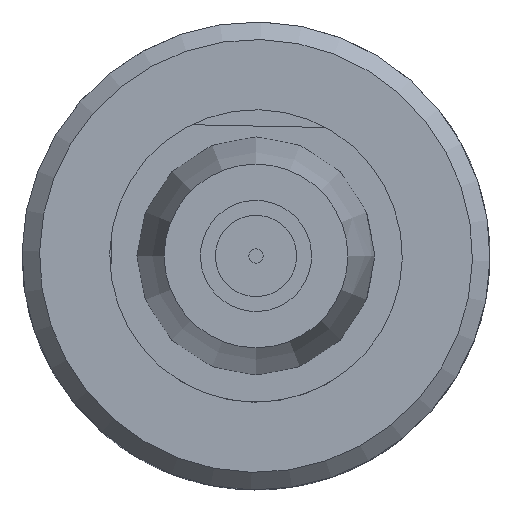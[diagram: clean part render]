
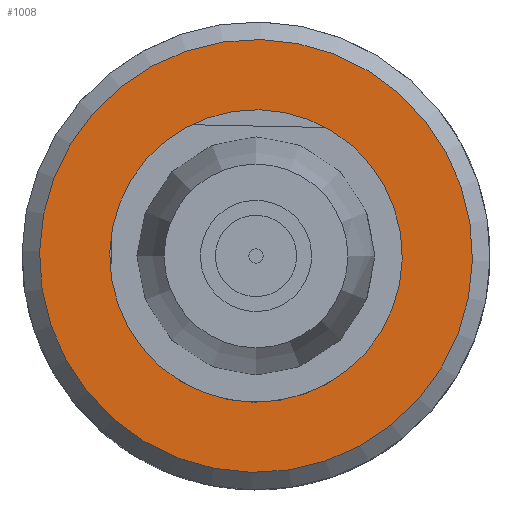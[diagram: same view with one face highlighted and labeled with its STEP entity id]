
A CAD part, front view. The second image highlights one B-rep face of the part: STEP entity #1008.
In plain terms, the highlighted planar face has unit normal (0, -1, 0).
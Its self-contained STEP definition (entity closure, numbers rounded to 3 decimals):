
#96=FACE_BOUND('',#227,.T.);
#151=FACE_OUTER_BOUND('',#226,.T.);
#226=EDGE_LOOP('',(#728));
#227=EDGE_LOOP('',(#729));
#447=CIRCLE('',#1291,3.7);
#449=CIRCLE('',#1295,2.5);
#501=VERTEX_POINT('',#1801);
#503=VERTEX_POINT('',#1807);
#594=EDGE_CURVE('',#501,#501,#447,.T.);
#596=EDGE_CURVE('',#503,#503,#449,.T.);
#728=ORIENTED_EDGE('',*,*,#594,.F.);
#729=ORIENTED_EDGE('',*,*,#596,.F.);
#960=PLANE('',#1294);
#1008=ADVANCED_FACE('',(#151,#96),#960,.T.);
#1291=AXIS2_PLACEMENT_3D('',#1802,#1454,#1455);
#1294=AXIS2_PLACEMENT_3D('',#1806,#1460,#1461);
#1295=AXIS2_PLACEMENT_3D('',#1808,#1462,#1463);
#1454=DIRECTION('center_axis',(0.,1.,0.));
#1455=DIRECTION('ref_axis',(-1.,0.,0.));
#1460=DIRECTION('center_axis',(0.,-1.,0.));
#1461=DIRECTION('ref_axis',(0.,0.,-1.));
#1462=DIRECTION('center_axis',(0.,-1.,0.));
#1463=DIRECTION('ref_axis',(1.,0.,0.));
#1801=CARTESIAN_POINT('',(3.7,0.,0.));
#1802=CARTESIAN_POINT('Origin',(0.,0.,0.));
#1806=CARTESIAN_POINT('Origin',(3.25,0.,0.));
#1807=CARTESIAN_POINT('',(2.5,0.,0.));
#1808=CARTESIAN_POINT('Origin',(0.,0.,0.));
